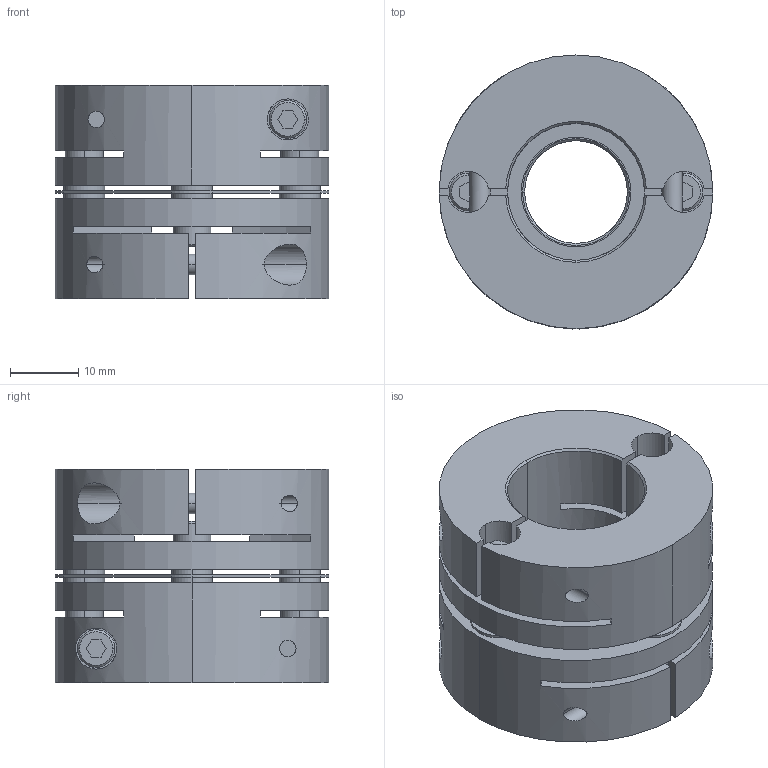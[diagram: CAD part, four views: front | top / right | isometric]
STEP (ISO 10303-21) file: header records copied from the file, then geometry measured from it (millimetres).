
FILE_DESCRIPTION((''),'2;1');
FILE_NAME('LAS-40C-15×20.stp','2011-08-11T09:07:48',(''),(''),'AutoCAD STEP 2000i','AutoCAD 2000i',', , ');
FILE_SCHEMA(('CONFIG_CONTROL_DESIGN'));
Length unit declared in the file: millimetre
Products named in the file (7): LAS-40C-15×15; 忣兜1; LA-4002-D15-1; LA-4002-D15; LA-4002-D10-1; LA-4002-D10; LAS40-ITA
Assembly tree (6 placements, depth 2):
  LAS-40C-15×15
    忣兜1
    LA-4002-D15-1
    LA-4002-D15
    LA-4002-D10-1
    LA-4002-D10
    LAS40-ITA
Bounding box: 40 x 40 x 31.2 mm (x, y, z)
Volume: 27167.4 mm3; surface area: 14842 mm2
Topology: 1 solids, 1 shells, 236 faces, 624 edges, 408 vertices
Faces by surface type: plane 112, cylinder 96, cone 28
Entity records: 8247 total; most frequent: CARTESIAN_POINT 2027, DIRECTION 1306, ORIENTED_EDGE 1248, EDGE_CURVE 624, AXIS2_PLACEMENT_3D 479, VERTEX_POINT 408, VECTOR 348, LINE 348
